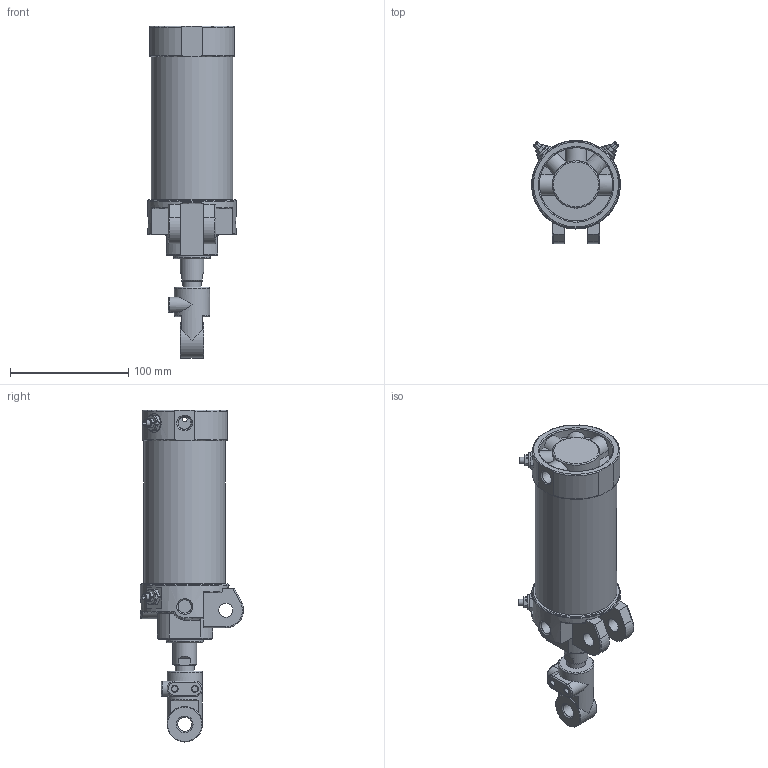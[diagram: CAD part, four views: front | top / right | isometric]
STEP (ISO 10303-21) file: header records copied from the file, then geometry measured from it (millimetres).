
FILE_DESCRIPTION((''),'2;1');
FILE_NAME('I:\3D電子目錄\氣缸\DCK\DCK\DCK-1B-63x75-I.stp','2008-02-26T15:28:50',('Administrator'),(''),'Autodesk Inventor 11','Autodesk Inventor 11','');
FILE_SCHEMA(('AUTOMOTIVE_DESIGN { 1 0 10303 214 1 1 1 1 }'));
Length unit declared in the file: millimetre
Products named in the file (6): DCK-1B-63-I; 緩衝針; 緩衝針-1; 緩衝針-201; 緩衝針-3
Assembly tree (8 placements, depth 3):
  DCK-1B-63-I
    DCK-1B-63-I
    緩衝針  x4
      緩衝針-1
      緩衝針-201
      緩衝針-3
Bounding box: 75 x 87.29 x 281 mm (x, y, z)
Volume: 363748.9 mm3; surface area: 133044.4 mm2
Topology: 17 solids, 17 shells, 639 faces, 1407 edges, 875 vertices
Faces by surface type: plane 233, cylinder 179, cone 139, torus 49, bspline 39
Full cylindrical faces by diameter (mm): 2 x1, 3 x2, 3.8 x2, 4 x6, 4.6 x4, 5 x8, 5.1 x4, 5.2 x12, 5.5 x4, 7 x1, 7.25 x1, 7.9 x4, 8 x2, 11.3 x3, 12 x3, 12.8 x4, 16 x3, 20 x1, 21 x1, 22 x2, 23 x1, 24.7 x1, 26 x1, 27 x1, 28 x1, 29 x1, 30 x2, 31 x1, 33 x1, 62 x1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
Entity records: 13902 total; most frequent: CARTESIAN_POINT 5736, DIRECTION 1661, ORIENTED_EDGE 1492, EDGE_CURVE 746, AXIS2_PLACEMENT_3D 726, EDGE_LOOP 584, VERTEX_POINT 538, FACE_OUTER_BOUND 390
